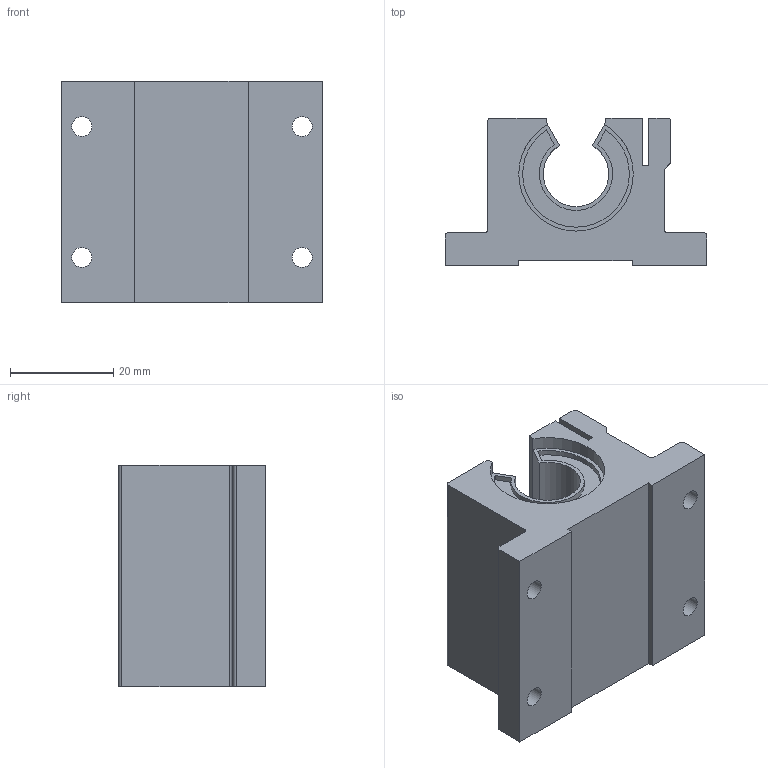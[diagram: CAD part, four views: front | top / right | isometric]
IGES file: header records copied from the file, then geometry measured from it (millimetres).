
Global section: file name: No Iges File Name specified; native system: AutoDesk Inventor R6.0; preprocessor: AutoDesk Inventor Iges Exporter R6.0; author: No Author specified; organization: No Organization specified; date: 20051231.140109; units: inch
Bounding box: 50.8 x 28.57 x 42.93 mm (x, y, z)
Surface area: 15827.7 mm2 (no closed solid volume)
Topology: 0 solids, 0 shells, 50 faces, 264 edges, 260 vertices
Faces by surface type: plane 30, revolution 11, bspline 9
